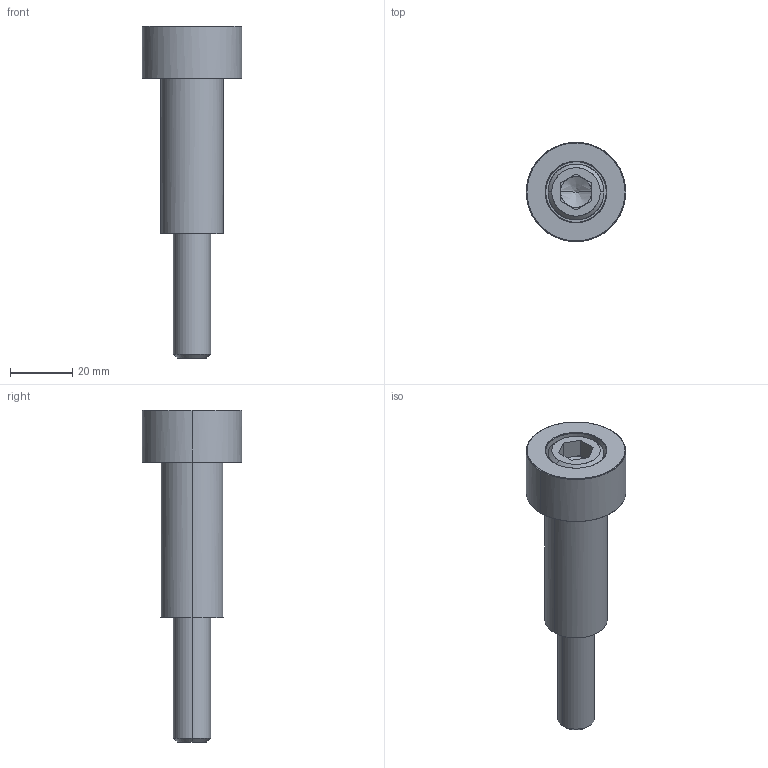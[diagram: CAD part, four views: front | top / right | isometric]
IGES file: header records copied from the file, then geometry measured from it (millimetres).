
Global section: file name: E:\UnigraphicsGraphicData\MISUMI_PRESS-PARTS\IGES\3d_sbjh20-50-95_05047_r00.igs; native system: NX V5.0; preprocessor: UGS NX IGES V5.0; author: MISUMI; date: 20110105.162425; units: millimetre
Bounding box: 32 x 32 x 107 mm (x, y, z)
Surface area: 14329.5 mm2 (no closed solid volume)
Topology: 0 solids, 0 shells, 48 faces, 298 edges, 296 vertices
Faces by surface type: bspline 48
